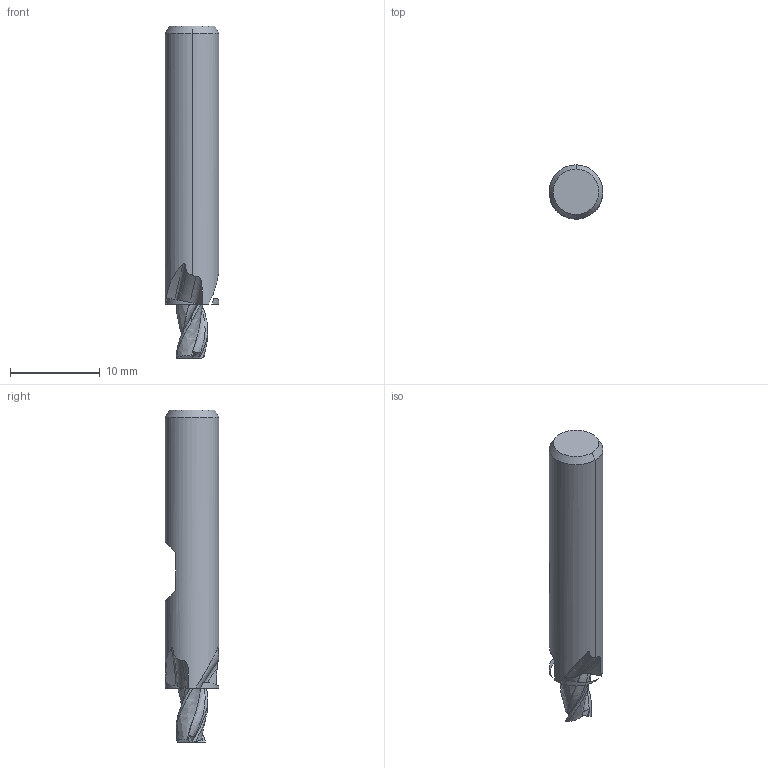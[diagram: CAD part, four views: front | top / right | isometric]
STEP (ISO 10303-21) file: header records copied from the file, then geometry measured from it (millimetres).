
FILE_DESCRIPTION(('no description'),'unknown implementation level');
FILE_NAME('solidCHd8h8PV6G8Q53_5kYZQN0vWwJo_1.STP',' ',('CIMSOURCE GmbH'),('CADClick - KiM GmbH - www.kimweb.de'),'unknown preprocess','ACIS','unknown authorization');
FILE_SCHEMA(('automotive_design'));
Length unit declared in the file: millimetre
Products named in the file (5): NOCUT; CUT
Bounding box: 6 x 6 x 37 mm (x, y, z)
Volume: 842.9 mm3; surface area: 708.8 mm2
Topology: 5 solids, 5 shells, 87 faces, 232 edges, 155 vertices
Faces by surface type: plane 29, revolution 21, cylinder 15, bspline 15, cone 7
Entity records: 8413 total; most frequent: CARTESIAN_POINT 3727, STYLED_ITEM 479, PRESENTATION_STYLE_ASSIGNMENT 479, COLOUR_RGB 479, ORIENTED_EDGE 464, DIRECTION 307, EDGE_CURVE 232, CURVE_STYLE 232
